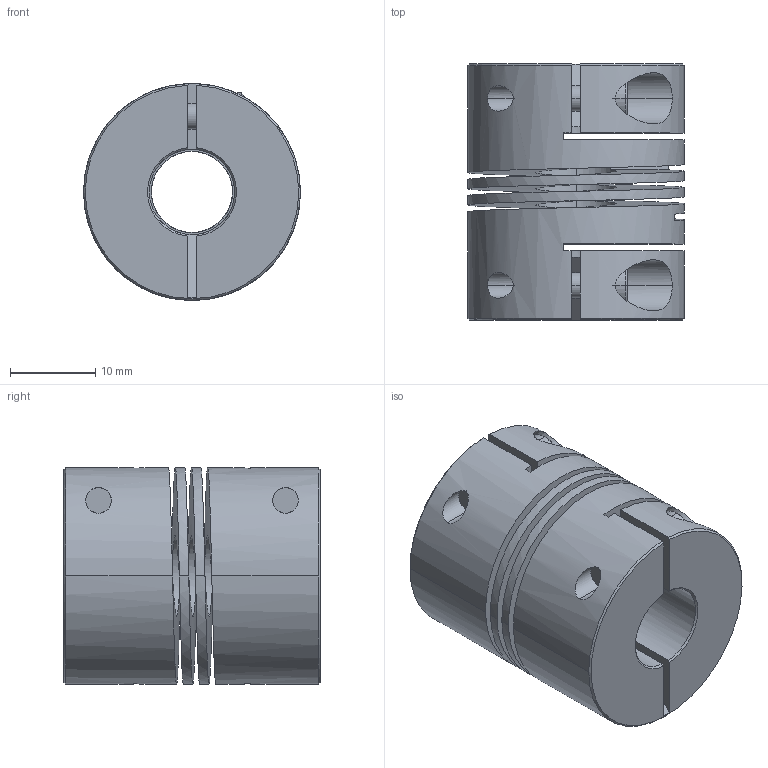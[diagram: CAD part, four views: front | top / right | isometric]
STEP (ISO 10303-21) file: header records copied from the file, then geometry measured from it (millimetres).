
FILE_DESCRIPTION((''),'2;1');
FILE_NAME('827_25','2006-12-06T',('Gary Melling'),(''),'PRO/ENGINEER BY PARAMETRIC TECHNOLOGY CORPORATION, 2006240','PRO/ENGINEER BY PARAMETRIC TECHNOLOGY CORPORATION, 2006240','');
FILE_SCHEMA(('CONFIG_CONTROL_DESIGN'));
Length unit declared in the file: millimetre
Products named in the file (1): 827_25
Bounding box: 25.4 x 30 x 25.39 mm (x, y, z)
Volume: 11032.1 mm3; surface area: 8156.1 mm2
Topology: 1 solids, 1 shells, 93 faces, 251 edges, 166 vertices
Faces by surface type: plane 46, cylinder 35, cone 10, bspline 2
Entity records: 4171 total; most frequent: CARTESIAN_POINT 1816, ORIENTED_EDGE 502, DIRECTION 449, EDGE_CURVE 251, VERTEX_POINT 166, AXIS2_PLACEMENT_3D 159, VECTOR 131, LINE 131
